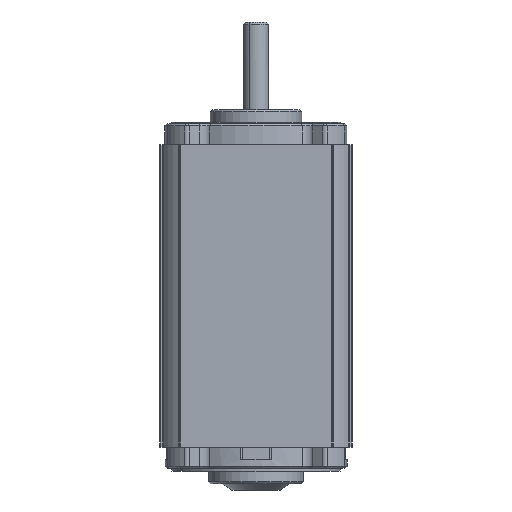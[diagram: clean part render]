
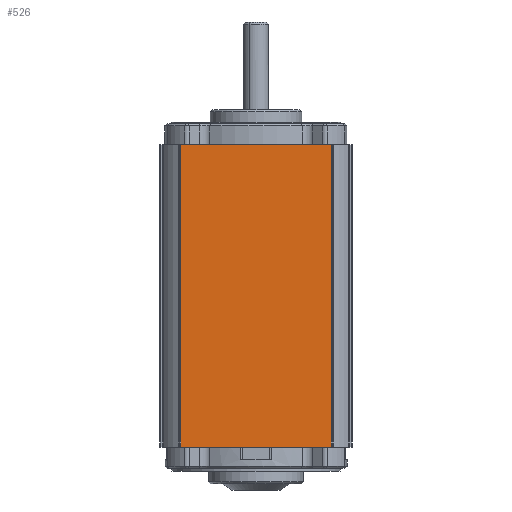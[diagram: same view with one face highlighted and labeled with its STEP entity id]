
A CAD part, front view. The second image highlights one B-rep face of the part: STEP entity #526.
In plain terms, the highlighted planar face has unit normal (0, -1, 0).
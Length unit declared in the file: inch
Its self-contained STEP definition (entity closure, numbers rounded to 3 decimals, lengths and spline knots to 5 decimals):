
#526 = ADVANCED_FACE ( 'NONE', ( #10254 ), #10253, .F. ) ;
#527 = EDGE_LOOP ( 'NONE', ( #530, #532, #535, #539 ) ) ;
#530 = ORIENTED_EDGE ( 'NONE', *, *, #556, .T. ) ;
#532 = ORIENTED_EDGE ( 'NONE', *, *, #533, .T. ) ;
#533 = EDGE_CURVE ( 'NONE', #553, #534, #10306, .T. ) ;
#534 = VERTEX_POINT ( 'NONE', #10302 ) ;
#535 = ORIENTED_EDGE ( 'NONE', *, *, #536, .T. ) ;
#536 = EDGE_CURVE ( 'NONE', #534, #537, #10301, .T. ) ;
#537 = VERTEX_POINT ( 'NONE', #10297 ) ;
#539 = ORIENTED_EDGE ( 'NONE', *, *, #540, .T. ) ;
#540 = EDGE_CURVE ( 'NONE', #537, #558, #10296, .T. ) ;
#553 = VERTEX_POINT ( 'NONE', #10329 ) ;
#556 = EDGE_CURVE ( 'NONE', #558, #553, #10328, .T. ) ;
#558 = VERTEX_POINT ( 'NONE', #10318 ) ;
#10249 = DIRECTION ( 'NONE',  ( -1., 0., 0. ) ) ;
#10250 = DIRECTION ( 'NONE',  ( 0., 1., 0. ) ) ;
#10251 = CARTESIAN_POINT ( 'NONE',  ( -1.1475, -1.442, 4.601 ) ) ;
#10252 = AXIS2_PLACEMENT_3D ( 'NONE', #10251, #10250, #10249 ) ;
#10253 = PLANE ( 'NONE',  #10252 ) ;
#10254 = FACE_OUTER_BOUND ( 'NONE', #527, .T. ) ;
#10293 = DIRECTION ( 'NONE',  ( 1., 0., 0. ) ) ;
#10294 = VECTOR ( 'NONE', #10293, 39.37008 ) ;
#10295 = CARTESIAN_POINT ( 'NONE',  ( -1.1475, -1.442, 0. ) ) ;
#10296 = LINE ( 'NONE', #10295, #10294 ) ;
#10297 = CARTESIAN_POINT ( 'NONE',  ( -1.1275, -1.442, 0. ) ) ;
#10298 = DIRECTION ( 'NONE',  ( 0., 0., -1. ) ) ;
#10299 = VECTOR ( 'NONE', #10298, 39.37008 ) ;
#10300 = CARTESIAN_POINT ( 'NONE',  ( -1.1275, -1.442, 4.601 ) ) ;
#10301 = LINE ( 'NONE', #10300, #10299 ) ;
#10302 = CARTESIAN_POINT ( 'NONE',  ( -1.1275, -1.442, 4.521 ) ) ;
#10303 = DIRECTION ( 'NONE',  ( -1., 0., 0. ) ) ;
#10304 = VECTOR ( 'NONE', #10303, 39.37008 ) ;
#10305 = CARTESIAN_POINT ( 'NONE',  ( 1.442, -1.442, 4.521 ) ) ;
#10306 = LINE ( 'NONE', #10305, #10304 ) ;
#10318 = CARTESIAN_POINT ( 'NONE',  ( 1.1275, -1.442, 0. ) ) ;
#10325 = DIRECTION ( 'NONE',  ( 0., 0., 1. ) ) ;
#10326 = VECTOR ( 'NONE', #10325, 39.37008 ) ;
#10327 = CARTESIAN_POINT ( 'NONE',  ( 1.1275, -1.442, 4.601 ) ) ;
#10328 = LINE ( 'NONE', #10327, #10326 ) ;
#10329 = CARTESIAN_POINT ( 'NONE',  ( 1.1275, -1.442, 4.521 ) ) ;
